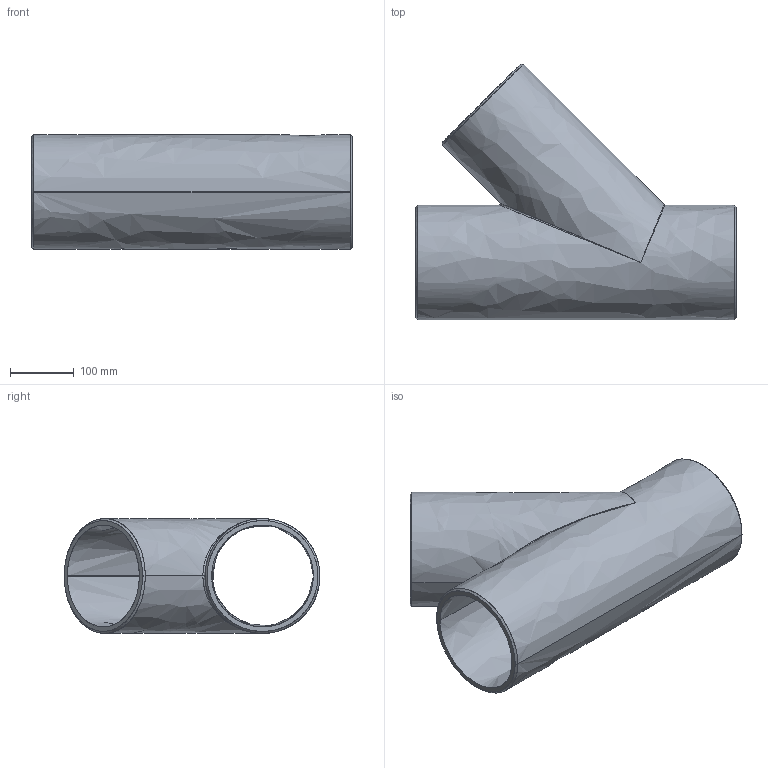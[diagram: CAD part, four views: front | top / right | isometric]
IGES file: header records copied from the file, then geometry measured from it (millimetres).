
Start section:  PTC IGES file: ats45_d180.igs
Global section: file name: ats45_d180.igs; native system: Pro/ENGINEER by Parametric Technology Corporation; preprocessor: 2011490; author: mtunjic; organization: Unknown; date: 20130724.093555; units: millimetre
Bounding box: 503 x 401.13 x 180 mm (x, y, z)
Surface area: 819573.2 mm2 (no closed solid volume)
Topology: 0 solids, 0 shells, 22 faces, 106 edges, 106 vertices
Faces by surface type: bspline 22
